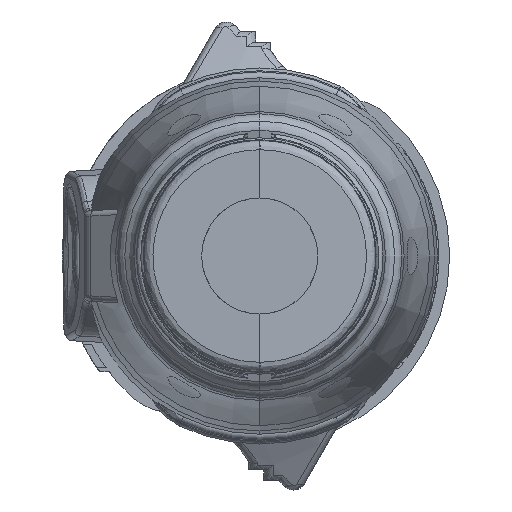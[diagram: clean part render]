
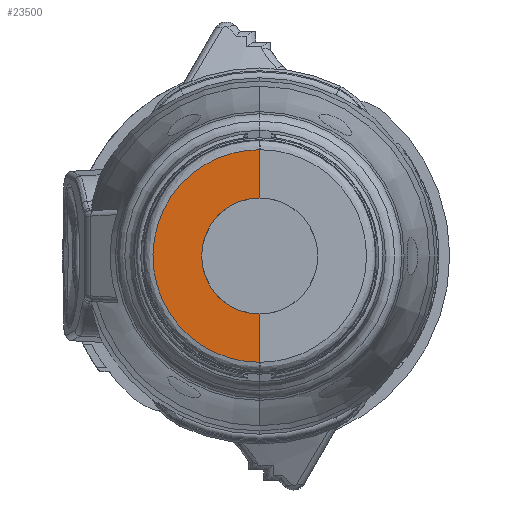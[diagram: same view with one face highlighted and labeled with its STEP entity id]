
A CAD part, front view. The second image highlights one B-rep face of the part: STEP entity #23500.
In plain terms, the highlighted planar face has unit normal (-0.035, -0.999, 0).
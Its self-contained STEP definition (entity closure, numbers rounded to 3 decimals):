
#3176=CARTESIAN_POINT('',(-3.1,-53.291,0.));
#3177=CARTESIAN_POINT('',(-3.1,-53.291,-0.258));
#3178=CARTESIAN_POINT('',(-3.039,-53.293,
-0.714));
#3179=CARTESIAN_POINT('',(-2.839,-53.3,
-1.289));
#3180=CARTESIAN_POINT('',(-2.557,-53.31,
-1.782));
#3181=CARTESIAN_POINT('',(-2.203,-53.322,
-2.204));
#3182=CARTESIAN_POINT('',(-1.782,-53.337,
-2.557));
#3183=CARTESIAN_POINT('',(-1.289,-53.354,
-2.839));
#3184=CARTESIAN_POINT('',(-0.714,-53.374,
-3.039));
#3185=CARTESIAN_POINT('',(-0.258,-53.39,-3.1));
#3186=CARTESIAN_POINT('',(0.,-53.399,-3.1));
#3188=CARTESIAN_POINT('',(0.,-53.399,-5.676));
#3189=CARTESIAN_POINT('',(-0.002,-53.399,
-5.676));
#3190=CARTESIAN_POINT('',(-0.006,-53.399,
-5.676));
#3191=CARTESIAN_POINT('',(-0.012,-53.399,
-5.676));
#3192=CARTESIAN_POINT('',(-0.016,-53.399,
-5.676));
#3193=CARTESIAN_POINT('',(-0.017,-53.399,
-5.676));
#3195=CARTESIAN_POINT('',(-0.017,-53.399,
-5.676));
#3196=CARTESIAN_POINT('',(-0.174,-53.393,
-5.676));
#3197=CARTESIAN_POINT('',(-0.486,-53.382,
-5.664));
#3198=CARTESIAN_POINT('',(-0.954,-53.366,
-5.606));
#3199=CARTESIAN_POINT('',(-1.414,-53.35,
-5.511));
#3200=CARTESIAN_POINT('',(-1.865,-53.334,
-5.377));
#3201=CARTESIAN_POINT('',(-2.304,-53.319,
-5.207));
#3202=CARTESIAN_POINT('',(-2.726,-53.304,
-5.001));
#3203=CARTESIAN_POINT('',(-3.131,-53.29,
-4.76));
#3204=CARTESIAN_POINT('',(-3.514,-53.277,
-4.487));
#3205=CARTESIAN_POINT('',(-3.873,-53.264,
-4.184));
#3206=CARTESIAN_POINT('',(-4.206,-53.252,
-3.852));
#3207=CARTESIAN_POINT('',(-4.51,-53.242,
-3.493));
#3208=CARTESIAN_POINT('',(-4.783,-53.232,
-3.111));
#3209=CARTESIAN_POINT('',(-5.024,-53.224,
-2.707));
#3210=CARTESIAN_POINT('',(-5.231,-53.217,
-2.285));
#3211=CARTESIAN_POINT('',(-5.402,-53.211,
-1.847));
#3212=CARTESIAN_POINT('',(-5.536,-53.206,
-1.396));
#3213=CARTESIAN_POINT('',(-5.633,-53.203,
-0.936));
#3214=CARTESIAN_POINT('',(-5.691,-53.2,
-0.47));
#3215=CARTESIAN_POINT('',(-5.71,-53.2,
0.));
#3216=CARTESIAN_POINT('',(-5.691,-53.2,
0.47));
#3217=CARTESIAN_POINT('',(-5.633,-53.203,
0.936));
#3218=CARTESIAN_POINT('',(-5.536,-53.206,
1.396));
#3219=CARTESIAN_POINT('',(-5.402,-53.211,
1.847));
#3220=CARTESIAN_POINT('',(-5.231,-53.217,
2.284));
#3221=CARTESIAN_POINT('',(-5.024,-53.224,
2.707));
#3222=CARTESIAN_POINT('',(-4.783,-53.232,
3.111));
#3223=CARTESIAN_POINT('',(-4.51,-53.242,
3.493));
#3224=CARTESIAN_POINT('',(-4.206,-53.252,
3.852));
#3225=CARTESIAN_POINT('',(-3.873,-53.264,
4.184));
#3226=CARTESIAN_POINT('',(-3.514,-53.277,
4.487));
#3227=CARTESIAN_POINT('',(-3.131,-53.29,
4.76));
#3228=CARTESIAN_POINT('',(-2.726,-53.304,
5.001));
#3229=CARTESIAN_POINT('',(-2.304,-53.319,
5.207));
#3230=CARTESIAN_POINT('',(-1.865,-53.334,
5.377));
#3231=CARTESIAN_POINT('',(-1.414,-53.35,
5.511));
#3232=CARTESIAN_POINT('',(-0.954,-53.366,
5.606));
#3233=CARTESIAN_POINT('',(-0.486,-53.382,
5.664));
#3234=CARTESIAN_POINT('',(-0.174,-53.393,
5.676));
#3235=CARTESIAN_POINT('',(-0.017,-53.399,
5.676));
#3237=CARTESIAN_POINT('',(-0.017,-53.399,
5.676));
#3238=CARTESIAN_POINT('',(-0.016,-53.399,
5.676));
#3239=CARTESIAN_POINT('',(-0.012,-53.399,
5.676));
#3240=CARTESIAN_POINT('',(-0.006,-53.399,
5.676));
#3241=CARTESIAN_POINT('',(-0.002,-53.399,
5.676));
#3242=CARTESIAN_POINT('',(0.,-53.399,5.676));
#3244=CARTESIAN_POINT('',(0.,-53.399,3.1));
#3245=CARTESIAN_POINT('',(-0.258,-53.39,3.1));
#3246=CARTESIAN_POINT('',(-0.714,-53.374,
3.039));
#3247=CARTESIAN_POINT('',(-1.289,-53.354,
2.839));
#3248=CARTESIAN_POINT('',(-1.782,-53.337,
2.557));
#3249=CARTESIAN_POINT('',(-2.203,-53.322,
2.204));
#3250=CARTESIAN_POINT('',(-2.557,-53.31,
1.782));
#3251=CARTESIAN_POINT('',(-2.839,-53.3,
1.289));
#3252=CARTESIAN_POINT('',(-3.039,-53.293,
0.714));
#3253=CARTESIAN_POINT('',(-3.1,-53.291,0.258));
#3254=CARTESIAN_POINT('',(-3.1,-53.291,0.));
#3260=CARTESIAN_POINT('',(0.,-53.399,-3.1));
#3282=CARTESIAN_POINT('',(0.,-53.399,3.1));
#3284=DIRECTION('',(0.,0.,-1.));
#3285=VECTOR('',#3284,2.576);
#3286=CARTESIAN_POINT('',(0.,-53.399,5.676));
#3287=LINE('',#3286,#3285);
#3344=DIRECTION('',(0.,0.,-1.));
#3345=VECTOR('',#3344,2.576);
#3346=CARTESIAN_POINT('',(0.,-53.399,
-3.1));
#3347=LINE('',#3346,#3345);
#3362=CARTESIAN_POINT('',(0.,-53.399,5.676));
#3436=CARTESIAN_POINT('',(0.,-53.399,-5.676));
#19811=VERTEX_POINT('',#3195);
#19812=VERTEX_POINT('',#3235);
#19815=VERTEX_POINT('',#3436);
#19816=VERTEX_POINT('',#3362);
#20320=VERTEX_POINT('',#3260);
#20322=VERTEX_POINT('',#3282);
#20323=VERTEX_POINT('',#3176);
#23480=CARTESIAN_POINT('',(0.,-53.399,6.15));
#23481=DIRECTION('',(-0.035,-0.999,0.));
#23482=DIRECTION('',(0.,0.,-1.));
#23483=AXIS2_PLACEMENT_3D('',#23480,#23481,#23482);
#23484=PLANE('',#23483);
#23486=ORIENTED_EDGE('',*,*,#23485,.T.);
#23488=ORIENTED_EDGE('',*,*,#23487,.T.);
#23490=ORIENTED_EDGE('',*,*,#23489,.T.);
#23491=ORIENTED_EDGE('',*,*,#23470,.T.);
#23493=ORIENTED_EDGE('',*,*,#23492,.T.);
#23495=ORIENTED_EDGE('',*,*,#23494,.T.);
#23497=ORIENTED_EDGE('',*,*,#23496,.T.);
#23498=EDGE_LOOP('',(#23486,#23488,#23490,#23491,#23493,#23495,#23497));
#23499=FACE_OUTER_BOUND('',#23498,.F.);
#23500=ADVANCED_FACE('',(#23499),#23484,.T.);
#3187=B_SPLINE_CURVE_WITH_KNOTS('',3,(#3176,#3177,#3178,#3179,#3180,#3181,#3182,
#3183,#3184,#3185,#3186),.UNSPECIFIED.,.F.,.F.,(4,1,1,1,1,1,1,1,4),(0.,
0.125,0.25,0.375,0.5,0.625,0.75,0.875,1.),.UNSPECIFIED.);
#3194=B_SPLINE_CURVE_WITH_KNOTS('',3,(#3188,#3189,#3190,#3191,#3192,#3193),
.UNSPECIFIED.,.F.,.F.,(4,1,1,4),(0.,0.333,0.667,1.),
.UNSPECIFIED.);
#3236=B_SPLINE_CURVE_WITH_KNOTS('',3,(#3195,#3196,#3197,#3198,#3199,#3200,#3201,
#3202,#3203,#3204,#3205,#3206,#3207,#3208,#3209,#3210,#3211,#3212,#3213,#3214,
#3215,#3216,#3217,#3218,#3219,#3220,#3221,#3222,#3223,#3224,#3225,#3226,#3227,
#3228,#3229,#3230,#3231,#3232,#3233,#3234,#3235),.UNSPECIFIED.,.F.,.F.,(4,1,1,1,
1,1,1,1,1,1,1,1,1,1,1,1,1,1,1,1,1,1,1,1,1,1,1,1,1,1,1,1,1,1,1,1,1,1,4),(0.,
0.026,0.053,0.079,0.105,
0.132,0.158,0.184,0.211,
0.237,0.263,0.289,0.316,
0.342,0.368,0.395,0.421,
0.447,0.474,0.5,0.526,0.553,
0.579,0.605,0.632,0.658,
0.684,0.711,0.737,0.763,
0.789,0.816,0.842,0.868,
0.895,0.921,0.947,0.974,1.),
.UNSPECIFIED.);
#3243=B_SPLINE_CURVE_WITH_KNOTS('',3,(#3237,#3238,#3239,#3240,#3241,#3242),
.UNSPECIFIED.,.F.,.F.,(4,1,1,4),(0.,0.333,0.667,1.),
.UNSPECIFIED.);
#3255=B_SPLINE_CURVE_WITH_KNOTS('',3,(#3244,#3245,#3246,#3247,#3248,#3249,#3250,
#3251,#3252,#3253,#3254),.UNSPECIFIED.,.F.,.F.,(4,1,1,1,1,1,1,1,4),(0.,
0.125,0.25,0.375,0.5,0.625,0.75,0.875,1.),.UNSPECIFIED.);
#23470=EDGE_CURVE('',#19811,#19812,#3236,.T.);
#23485=EDGE_CURVE('',#20323,#20320,#3187,.T.);
#23487=EDGE_CURVE('',#20320,#19815,#3347,.T.);
#23489=EDGE_CURVE('',#19815,#19811,#3194,.T.);
#23492=EDGE_CURVE('',#19812,#19816,#3243,.T.);
#23494=EDGE_CURVE('',#19816,#20322,#3287,.T.);
#23496=EDGE_CURVE('',#20322,#20323,#3255,.T.);
